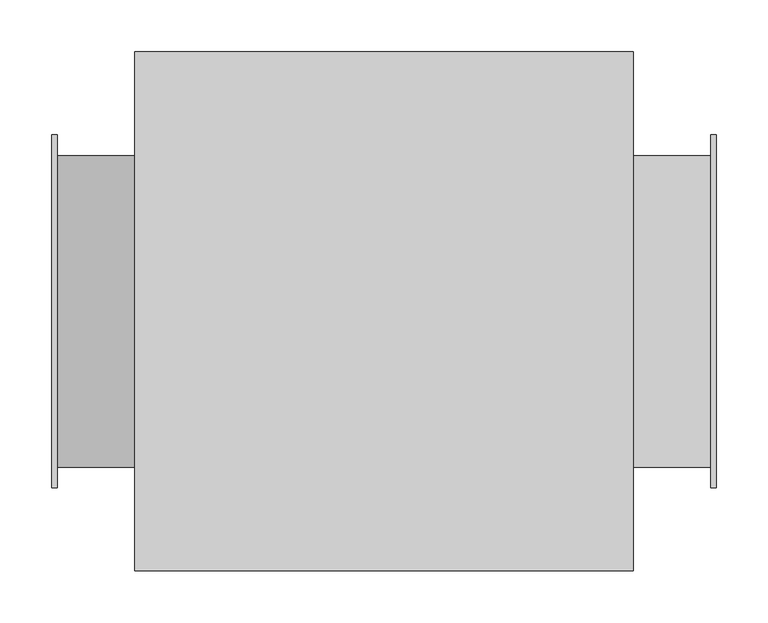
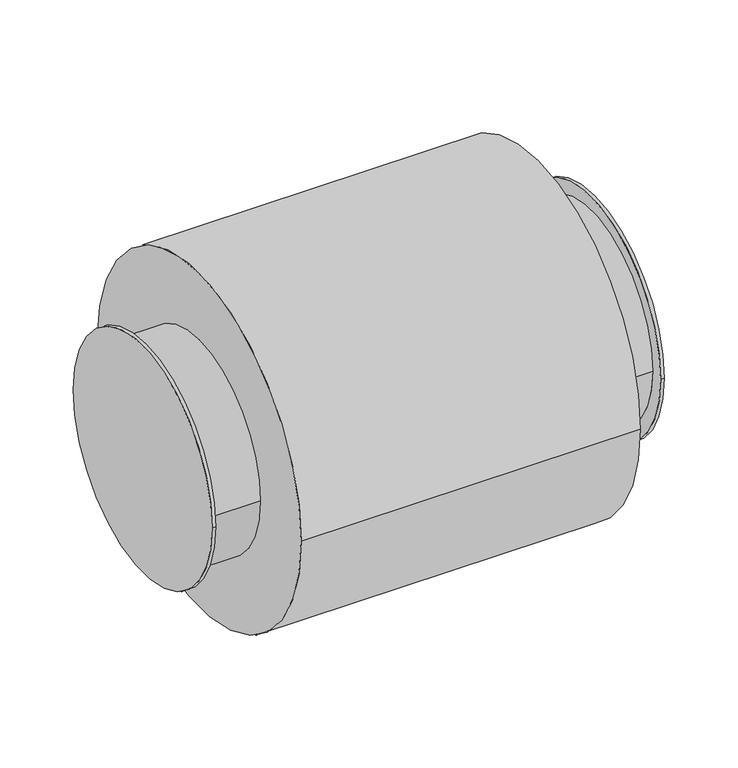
"""IFC4 building model written with IfcOpenShell, lengths in millimetres: damper geometry, Шумоглушитель_Круглый_ГТК : ГТК 2 (L=480)."""

from ifc_helpers import new_model, si_unit, point, frame, origin, origin_2d, place, context, project, spatial, circle_curve, trimmed, segment, composite_curve, outline, extrude, source, transform, mapped, element, save
from ifc_brep_helpers import plane_surface, cylinder_surface, advanced_brep


def damper_9d352e0b(model_context):
    return source(origin(), model_context, "Body", "SolidModel", [
        advanced_brep(
        [(315.0, 170.0, 0.0), (315.0, -170.0, 0.0), (315.0, 150.0, 0.0), (315.0, -150.0, 0.0), (240.0, 150.0, 0.0), (240.0, -150.0, 0.0), (320.0, -170.0, 0.0), (320.0, 170.0, 0.0)],
        [
            (0, 1, circle_curve(frame((315.0, 0.0, 0.0), z_axis=(-1.0, 0.0, 0.0), x_axis=(0.0, 1.0, 0.0)), 170.0)),
            (1, 0, circle_curve(frame((315.0, 0.0, 0.0), z_axis=(-1.0, 0.0, 0.0), x_axis=(0.0, 1.0, 0.0)), 170.0)),
            (2, 3, circle_curve(frame((315.0, 0.0, 0.0), z_axis=(1.0, 0.0, 0.0), x_axis=(0.0, -1.0, 0.0)), 150.0)),
            (3, 2, circle_curve(frame((315.0, 0.0, 0.0), z_axis=(1.0, 0.0, 0.0), x_axis=(0.0, -1.0, 0.0)), 150.0)),
            (2, 4),
            (4, 5, circle_curve(frame((240.0, 0.0, 0.0), z_axis=(1.0, 0.0, 0.0), x_axis=(0.0, -1.0, 0.0)), 150.0)),
            (5, 3),
            (5, 4, circle_curve(frame((240.0, 0.0, 0.0), z_axis=(1.0, 0.0, 0.0), x_axis=(0.0, -1.0, 0.0)), 150.0)),
            (6, 7, circle_curve(frame((320.0, 0.0, 0.0), z_axis=(1.0, 0.0, 0.0), x_axis=(0.0, 1.0, 0.0)), 170.0)),
            (7, 6, circle_curve(frame((320.0, 0.0, 0.0), z_axis=(1.0, 0.0, 0.0), x_axis=(0.0, 1.0, 0.0)), 170.0)),
            (6, 1),
            (0, 7),
        ],
        [
            plane_surface(frame((315.0, -150.0, 0.0), z_axis=(-1.0, 0.0, 0.0), x_axis=(0.0, 0.0, 1.0))),
            cylinder_surface(frame((315.0, 0.0, 0.0), z_axis=(1.0, 0.0, 0.0), x_axis=(0.0, -1.0, 0.0)), 150.0),
            plane_surface(frame((320.0, 170.0, 0.0), z_axis=(1.0, 0.0, 0.0), x_axis=(0.0, 0.0, 1.0))),
            plane_surface(frame((240.0, 170.0, 0.0), z_axis=(-1.0, 0.0, 0.0), x_axis=(0.0, 0.0, -1.0))),
            cylinder_surface(frame((240.0, 0.0, 0.0), z_axis=(1.0, 0.0, 0.0), x_axis=(0.0, 1.0, 0.0)), 170.0),
        ],
        [
            (0, [[1, 2], [3, 4]]),
            (1, [[-3, 5, 6, 7]]),
            (1, [[-4, -7, 8, -5]]),
            (2, [[9, 10]]),
            (3, [[-6, -8]]),
            (4, [[-9, 11, -1, 12]]),
            (4, [[-10, -12, -2, -11]]),
        ],
    ),
        advanced_brep(
        [(-315.0, -170.0, 0.0), (-315.0, 170.0, 0.0), (-315.0, -150.0, 0.0), (-315.0, 150.0, 0.0), (-240.0, -150.0, 0.0), (-240.0, 150.0, 0.0), (-320.0, -170.0, 0.0), (-320.0, 170.0, 0.0)],
        [
            (0, 1, circle_curve(frame((-315.0, 0.0, 0.0), z_axis=(1.0, 0.0, 0.0), x_axis=(0.0, 1.0, 0.0)), 170.0)),
            (1, 0, circle_curve(frame((-315.0, 0.0, 0.0), z_axis=(1.0, 0.0, 0.0), x_axis=(0.0, 1.0, 0.0)), 170.0)),
            (2, 3, circle_curve(frame((-315.0, 0.0, 0.0), z_axis=(-1.0, 0.0, 0.0), x_axis=(0.0, 1.0, 0.0)), 150.0)),
            (3, 2, circle_curve(frame((-315.0, 0.0, 0.0), z_axis=(-1.0, 0.0, 0.0), x_axis=(0.0, 1.0, 0.0)), 150.0)),
            (2, 4),
            (4, 5, circle_curve(frame((-240.0, 0.0, 0.0), z_axis=(-1.0, 0.0, 0.0), x_axis=(0.0, 1.0, 0.0)), 150.0)),
            (5, 3),
            (5, 4, circle_curve(frame((-240.0, 0.0, 0.0), z_axis=(-1.0, 0.0, 0.0), x_axis=(0.0, 1.0, 0.0)), 150.0)),
            (6, 7, circle_curve(frame((-320.0, 0.0, 0.0), z_axis=(-1.0, 0.0, 0.0), x_axis=(0.0, 1.0, 0.0)), 170.0)),
            (7, 6, circle_curve(frame((-320.0, 0.0, 0.0), z_axis=(-1.0, 0.0, 0.0), x_axis=(0.0, 1.0, 0.0)), 170.0)),
            (7, 1),
            (0, 6),
        ],
        [
            plane_surface(frame((-315.0, 250.0, 0.0), z_axis=(1.0, 0.0, 0.0), x_axis=(0.0, 0.0, -1.0))),
            cylinder_surface(frame((0.0, 0.0, 0.0), z_axis=(-1.0, 0.0, 0.0), x_axis=(0.0, 1.0, 0.0)), 150.0),
            plane_surface(frame((-240.0, 170.0, 0.0), z_axis=(1.0, 0.0, 0.0), x_axis=(0.0, 0.0, 1.0))),
            plane_surface(frame((-320.0, 170.0, 0.0), z_axis=(-1.0, 0.0, 0.0), x_axis=(0.0, 0.0, -1.0))),
            cylinder_surface(frame((-320.0, 0.0, 0.0), z_axis=(1.0, 0.0, 0.0), x_axis=(0.0, 1.0, 0.0)), 170.0),
        ],
        [
            (0, [[1, 2], [3, 4]]),
            (1, [[-3, 5, 6, 7]]),
            (1, [[-4, -7, 8, -5]]),
            (2, [[-6, -8]]),
            (3, [[9, 10]]),
            (4, [[-10, 11, -1, 12]]),
            (4, [[-9, -12, -2, -11]]),
        ],
    ),
        extrude(outline(composite_curve([segment(trimmed(circle_curve(origin_2d(), 250.0), [point((-250.0, 0.0))], [point((250.0, 0.0))], False, "CARTESIAN"), True, "CONTINUOUS"), segment(trimmed(circle_curve(origin_2d(), 250.0), [point((250.0, 0.0))], [point((-250.0, 0.0))], False, "CARTESIAN"), True, "CONTINUOUS")], self_intersect=False)), frame((-240.0, 0.0, 0.0), z_axis=(1.0, 0.0, 0.0), x_axis=(0.0, 1.0, 0.0)), (0.0, 0.0, 1.0), 480.0),
    ])


if __name__ == "__main__":
    model = new_model("IFC4")
    model_context = context("Model", 3, world=origin())
    ifc_project = project(units=[si_unit("LENGTHUNIT", "METRE", prefix="MILLI")], contexts=[model_context])
    site = spatial("IfcSite", under=ifc_project)
    building = spatial("IfcBuilding", under=site)
    placement = place(None, origin())
    damper_shape = damper_9d352e0b(model_context)
    element("IfcDamper", 1, ObjectType="Шумоглушитель_Круглый_ГТК : ГТК 2 (L=480)", at=placement, inside=building, context=model_context, shape_type="MappedRepresentation", body=[
        mapped(damper_shape, transform((0.0, 0.0, 0.0), x_axis=(1.0, 0.0, 0.0), y_axis=(0.0, 1.0, 0.0), z_axis=(0.0, 0.0, 1.0))),
    ])
    save(model, "model.ifc")
